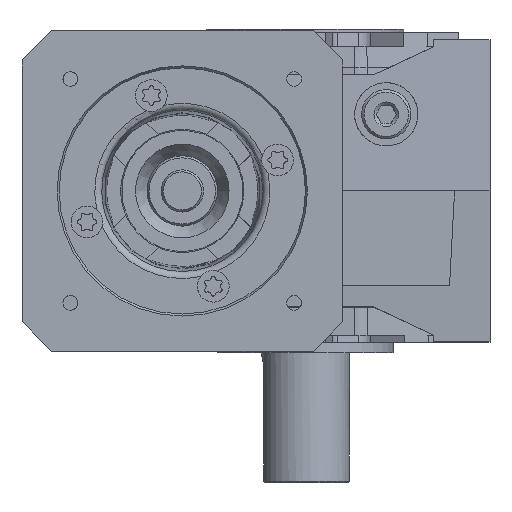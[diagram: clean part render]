
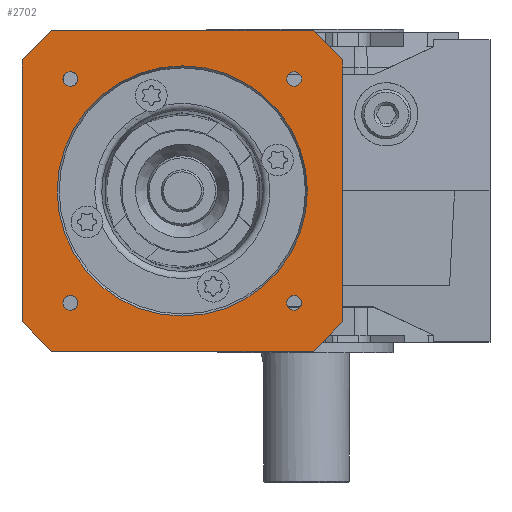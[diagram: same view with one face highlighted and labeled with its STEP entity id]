
A CAD part, left-side view. The second image highlights one B-rep face of the part: STEP entity #2702.
In plain terms, the highlighted planar face has unit normal (-1, 0, 0).
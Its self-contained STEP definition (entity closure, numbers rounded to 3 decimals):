
#2702 = ADVANCED_FACE( '', ( #5749, #5750, #5751, #5752, #5753, #5754 ), #5755, .T. );
#5749 = FACE_BOUND( '', #10685, .T. );
#5750 = FACE_BOUND( '', #10686, .T. );
#5751 = FACE_BOUND( '', #10687, .T. );
#5752 = FACE_BOUND( '', #10688, .T. );
#5753 = FACE_BOUND( '', #10689, .T. );
#5754 = FACE_OUTER_BOUND( '', #10690, .T. );
#5755 = PLANE( '', #10691 );
#10685 = EDGE_LOOP( '', ( #20263 ) );
#10686 = EDGE_LOOP( '', ( #20264 ) );
#10687 = EDGE_LOOP( '', ( #20265 ) );
#10688 = EDGE_LOOP( '', ( #20266 ) );
#10689 = EDGE_LOOP( '', ( #20267 ) );
#10690 = EDGE_LOOP( '', ( #20268, #20269, #20270, #20271, #20272, #20273, #20274, #20275 ) );
#10691 = AXIS2_PLACEMENT_3D( '', #20276, #20277, #20278 );
#20263 = ORIENTED_EDGE( '', *, *, #26332, .T. );
#20264 = ORIENTED_EDGE( '', *, *, #26307, .T. );
#20265 = ORIENTED_EDGE( '', *, *, #26309, .T. );
#20266 = ORIENTED_EDGE( '', *, *, #26293, .T. );
#20267 = ORIENTED_EDGE( '', *, *, #26292, .T. );
#20268 = ORIENTED_EDGE( '', *, *, #26271, .T. );
#20269 = ORIENTED_EDGE( '', *, *, #26328, .T. );
#20270 = ORIENTED_EDGE( '', *, *, #26333, .T. );
#20271 = ORIENTED_EDGE( '', *, *, #26334, .T. );
#20272 = ORIENTED_EDGE( '', *, *, #26335, .T. );
#20273 = ORIENTED_EDGE( '', *, *, #26336, .T. );
#20274 = ORIENTED_EDGE( '', *, *, #26337, .T. );
#20275 = ORIENTED_EDGE( '', *, *, #26338, .T. );
#20276 = CARTESIAN_POINT( '', ( -124., 80., -45. ) );
#20277 = DIRECTION( '', ( -1., 0., 0. ) );
#20278 = DIRECTION( '', ( 0., 0., 1. ) );
#26271 = EDGE_CURVE( '', #31438, #31436, #31439, .F. );
#26292 = EDGE_CURVE( '', #31473, #31473, #31474, .T. );
#26293 = EDGE_CURVE( '', #31475, #31475, #31476, .T. );
#26307 = EDGE_CURVE( '', #31502, #31502, #31503, .T. );
#26309 = EDGE_CURVE( '', #31505, #31505, #31506, .T. );
#26328 = EDGE_CURVE( '', #31436, #31532, #31534, .F. );
#26332 = EDGE_CURVE( '', #31540, #31540, #31541, .F. );
#26333 = EDGE_CURVE( '', #31532, #31542, #31543, .F. );
#26334 = EDGE_CURVE( '', #31542, #31544, #31545, .F. );
#26335 = EDGE_CURVE( '', #31544, #31546, #31547, .F. );
#26336 = EDGE_CURVE( '', #31546, #31548, #31549, .F. );
#26337 = EDGE_CURVE( '', #31548, #31550, #31551, .F. );
#26338 = EDGE_CURVE( '', #31550, #31438, #31552, .F. );
#31436 = VERTEX_POINT( '', #41657 );
#31438 = VERTEX_POINT( '', #41660 );
#31439 = LINE( '', #41661, #41662 );
#31473 = VERTEX_POINT( '', #41777 );
#31474 = CIRCLE( '', #41778, 2.1 );
#31475 = VERTEX_POINT( '', #41779 );
#31476 = CIRCLE( '', #41780, 2.1 );
#31502 = VERTEX_POINT( '', #41825 );
#31503 = CIRCLE( '', #41826, 2.1 );
#31505 = VERTEX_POINT( '', #41847 );
#31506 = CIRCLE( '', #41848, 2.1 );
#31532 = VERTEX_POINT( '', #41901 );
#31534 = LINE( '', #41904, #41905 );
#31540 = VERTEX_POINT( '', #41914 );
#31541 = CIRCLE( '', #41915, 35.577 );
#31542 = VERTEX_POINT( '', #41916 );
#31543 = LINE( '', #41917, #41918 );
#31544 = VERTEX_POINT( '', #41919 );
#31545 = LINE( '', #41920, #41921 );
#31546 = VERTEX_POINT( '', #41922 );
#31547 = LINE( '', #41923, #41924 );
#31548 = VERTEX_POINT( '', #41925 );
#31549 = LINE( '', #41926, #41927 );
#31550 = VERTEX_POINT( '', #41928 );
#31551 = LINE( '', #41929, #41930 );
#31552 = LINE( '', #41931, #41932 );
#41657 = CARTESIAN_POINT( '', ( -124., 80.576, -37.239 ) );
#41660 = CARTESIAN_POINT( '', ( -124., 80.576, 37.239 ) );
#41661 = CARTESIAN_POINT( '', ( -124., 80.576, -45. ) );
#41662 = VECTOR( '', #48907, 1000. );
#41777 = CARTESIAN_POINT( '', ( -124., 68.92, -31.82 ) );
#41778 = AXIS2_PLACEMENT_3D( '', #48949, #48950, #48951 );
#41779 = CARTESIAN_POINT( '', ( -124., 3.18, -33.92 ) );
#41780 = AXIS2_PLACEMENT_3D( '', #48952, #48953, #48954 );
#41825 = CARTESIAN_POINT( '', ( -124., 66.82, 33.92 ) );
#41826 = AXIS2_PLACEMENT_3D( '', #48991, #48992, #48993 );
#41847 = CARTESIAN_POINT( '', ( -124., 1.08, 31.82 ) );
#41848 = AXIS2_PLACEMENT_3D( '', #48994, #48995, #48996 );
#41901 = CARTESIAN_POINT( '', ( -124., 72.239, -45.576 ) );
#41904 = CARTESIAN_POINT( '', ( -124., 76.408, -41.408 ) );
#41905 = VECTOR( '', #49030, 1000. );
#41914 = CARTESIAN_POINT( '', ( -124., 35., 35.577 ) );
#41915 = AXIS2_PLACEMENT_3D( '', #49034, #49035, #49036 );
#41916 = CARTESIAN_POINT( '', ( -124., -2.239, -45.576 ) );
#41917 = CARTESIAN_POINT( '', ( -124., 80., -45.576 ) );
#41918 = VECTOR( '', #49037, 1000. );
#41919 = CARTESIAN_POINT( '', ( -124., -10.576, -37.239 ) );
#41920 = CARTESIAN_POINT( '', ( -124., 38.592, -86.408 ) );
#41921 = VECTOR( '', #49038, 1000. );
#41922 = CARTESIAN_POINT( '', ( -124., -10.576, 37.239 ) );
#41923 = CARTESIAN_POINT( '', ( -124., -10.576, -45. ) );
#41924 = VECTOR( '', #49039, 1000. );
#41925 = CARTESIAN_POINT( '', ( -124., -2.239, 45.576 ) );
#41926 = CARTESIAN_POINT( '', ( -124., -6.408, 41.408 ) );
#41927 = VECTOR( '', #49040, 1000. );
#41928 = CARTESIAN_POINT( '', ( -124., 72.239, 45.576 ) );
#41929 = CARTESIAN_POINT( '', ( -124., 80., 45.576 ) );
#41930 = VECTOR( '', #49041, 1000. );
#41931 = CARTESIAN_POINT( '', ( -124., 121.408, -3.592 ) );
#41932 = VECTOR( '', #49042, 1000. );
#48907 = DIRECTION( '', ( 0., 0., 1. ) );
#48949 = CARTESIAN_POINT( '', ( -124., 66.82, -31.82 ) );
#48950 = DIRECTION( '', ( 1., 0., 0. ) );
#48951 = DIRECTION( '', ( 0., 1., 0. ) );
#48952 = CARTESIAN_POINT( '', ( -124., 3.18, -31.82 ) );
#48953 = DIRECTION( '', ( 1., 0., 0. ) );
#48954 = DIRECTION( '', ( 0., 0., -1. ) );
#48991 = CARTESIAN_POINT( '', ( -124., 66.82, 31.82 ) );
#48992 = DIRECTION( '', ( 1., 0., 0. ) );
#48993 = DIRECTION( '', ( 0., 0., 1. ) );
#48994 = CARTESIAN_POINT( '', ( -124., 3.18, 31.82 ) );
#48995 = DIRECTION( '', ( 1., 0., 0. ) );
#48996 = DIRECTION( '', ( 0., -1., 0. ) );
#49030 = DIRECTION( '', ( 0., 0.707, 0.707 ) );
#49034 = CARTESIAN_POINT( '', ( -124., 35., 0. ) );
#49035 = DIRECTION( '', ( -1., 0., 0. ) );
#49036 = DIRECTION( '', ( 0., 0., 1. ) );
#49037 = DIRECTION( '', ( 0., 1., 0. ) );
#49038 = DIRECTION( '', ( 0., 0.707, -0.707 ) );
#49039 = DIRECTION( '', ( 0., 0., -1. ) );
#49040 = DIRECTION( '', ( 0., -0.707, -0.707 ) );
#49041 = DIRECTION( '', ( 0., -1., 0. ) );
#49042 = DIRECTION( '', ( 0., -0.707, 0.707 ) );
